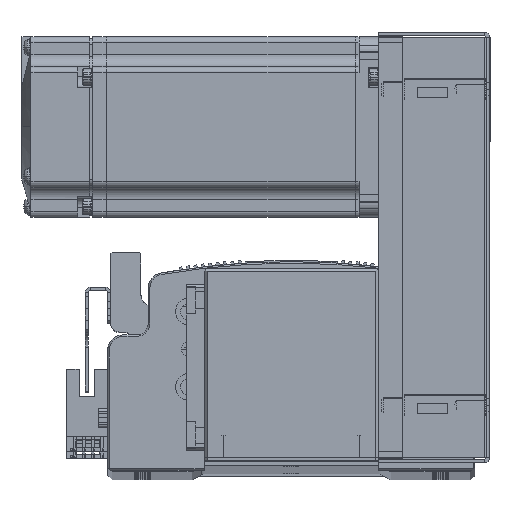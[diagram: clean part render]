
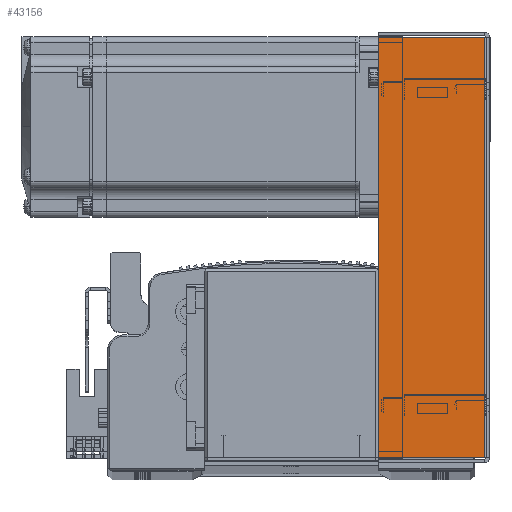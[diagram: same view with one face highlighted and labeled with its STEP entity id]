
A CAD part, top view. The second image highlights one B-rep face of the part: STEP entity #43156.
In plain terms, the highlighted planar face has unit normal (0, 0, 1) as drawn and (0, 0, -1) by its records, which use the part's own axes.
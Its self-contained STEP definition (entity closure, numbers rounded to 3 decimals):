
#5952 = EDGE_CURVE ( 'NONE', #21645, #21616, #56669, .T. ) ;
#6014 = EDGE_CURVE ( 'NONE', #21675, #21619, #46580, .T. ) ;
#6016 = EDGE_CURVE ( 'NONE', #21619, #21616, #46583, .T. ) ;
#6021 = EDGE_CURVE ( 'NONE', #21675, #21645, #46571, .T. ) ;
#12801 = AXIS2_PLACEMENT_3D ( 'NONE', #51839, #51779, #51868 ) ;
#13870 = EDGE_LOOP ( 'NONE', ( #87232, #87210, #87197, #87211 ) ) ;
#21616 = VERTEX_POINT ( 'NONE', #80851 ) ;
#21619 = VERTEX_POINT ( 'NONE', #80847 ) ;
#21645 = VERTEX_POINT ( 'NONE', #80871 ) ;
#21675 = VERTEX_POINT ( 'NONE', #80939 ) ;
#34643 = FACE_OUTER_BOUND ( 'NONE', #13870, .T. ) ;
#43156 = ADVANCED_FACE ( 'NONE', ( #34643 ), #51854, .F. ) ;
#46571 = LINE ( 'NONE', #65109, #46576 ) ;
#46576 = VECTOR ( 'NONE', #65183, 1000. ) ;
#46580 = LINE ( 'NONE', #65107, #46581 ) ;
#46581 = VECTOR ( 'NONE', #65113, 1000. ) ;
#46583 = LINE ( 'NONE', #65103, #46584 ) ;
#46584 = VECTOR ( 'NONE', #65164, 1000. ) ;
#51779 = DIRECTION ( 'NONE',  ( 0., 0., 1. ) ) ;
#51839 = CARTESIAN_POINT ( 'NONE',  ( 0., 0., -33.5 ) ) ;
#51854 = PLANE ( 'NONE',  #12801 ) ;
#51868 = DIRECTION ( 'NONE',  ( 0., -1., 0. ) ) ;
#56666 = VECTOR ( 'NONE', #64998, 1000. ) ;
#56669 = LINE ( 'NONE', #64997, #56666 ) ;
#64997 = CARTESIAN_POINT ( 'NONE',  ( 69.793, 0., -33.5 ) ) ;
#64998 = DIRECTION ( 'NONE',  ( 0., 1., 0. ) ) ;
#65103 = CARTESIAN_POINT ( 'NONE',  ( 0., 36., -33.5 ) ) ;
#65107 = CARTESIAN_POINT ( 'NONE',  ( -69.793, 0., -33.5 ) ) ;
#65109 = CARTESIAN_POINT ( 'NONE',  ( 71.5, 0.737, -33.5 ) ) ;
#65113 = DIRECTION ( 'NONE',  ( 0., 1., 0. ) ) ;
#65164 = DIRECTION ( 'NONE',  ( 1., 0., 0. ) ) ;
#65183 = DIRECTION ( 'NONE',  ( 1., 0., 0. ) ) ;
#80847 = CARTESIAN_POINT ( 'NONE',  ( -69.793, 36., -33.5 ) ) ;
#80851 = CARTESIAN_POINT ( 'NONE',  ( 69.793, 36., -33.5 ) ) ;
#80871 = CARTESIAN_POINT ( 'NONE',  ( 69.793, 0.737, -33.5 ) ) ;
#80939 = CARTESIAN_POINT ( 'NONE',  ( -69.793, 0.737, -33.5 ) ) ;
#87197 = ORIENTED_EDGE ( 'NONE', *, *, #6016, .T. ) ;
#87210 = ORIENTED_EDGE ( 'NONE', *, *, #6014, .T. ) ;
#87211 = ORIENTED_EDGE ( 'NONE', *, *, #5952, .F. ) ;
#87232 = ORIENTED_EDGE ( 'NONE', *, *, #6021, .F. ) ;
